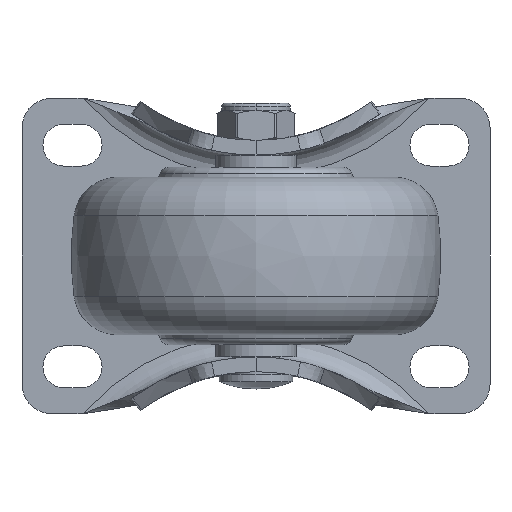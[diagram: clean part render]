
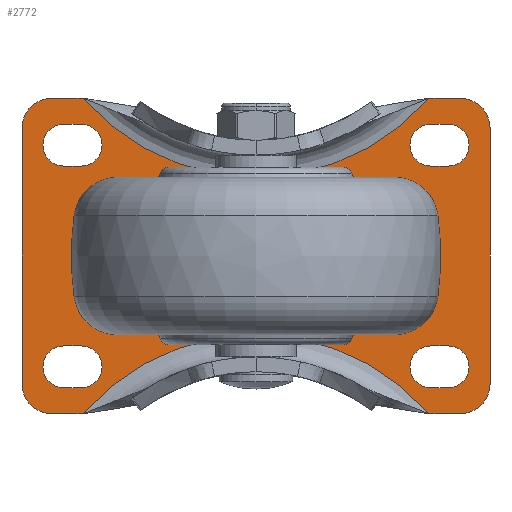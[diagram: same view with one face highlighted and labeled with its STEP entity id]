
A CAD part, front view. The second image highlights one B-rep face of the part: STEP entity #2772.
In plain terms, the highlighted planar face has unit normal (0, -1, 0).
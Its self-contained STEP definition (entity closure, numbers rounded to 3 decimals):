
#1910=CARTESIAN_POINT('',(-41.5,-3.,-26.));
#1911=DIRECTION('',(0.,-1.,0.));
#1912=DIRECTION('',(-1.,0.,0.));
#1913=AXIS2_PLACEMENT_3D('',#1910,#1911,#1912);
#1915=DIRECTION('',(0.,0.,-1.));
#1916=VECTOR('',#1915,52.);
#1917=CARTESIAN_POINT('',(-47.5,-3.,26.));
#1918=LINE('',#1917,#1916);
#1919=CARTESIAN_POINT('',(-41.5,-3.,26.));
#1920=DIRECTION('',(0.,-1.,0.));
#1921=DIRECTION('',(0.,0.,1.));
#1922=AXIS2_PLACEMENT_3D('',#1919,#1920,#1921);
#1924=DIRECTION('',(-1.,0.,0.));
#1925=VECTOR('',#1924,6.4);
#1926=CARTESIAN_POINT('',(-35.1,-3.,32.));
#1927=LINE('',#1926,#1925);
#1928=DIRECTION('',(-1.,0.,0.));
#1929=VECTOR('',#1928,6.4);
#1930=CARTESIAN_POINT('',(41.5,-3.,32.));
#1931=LINE('',#1930,#1929);
#1932=CARTESIAN_POINT('',(41.5,-3.,26.));
#1933=DIRECTION('',(0.,-1.,0.));
#1934=DIRECTION('',(1.,0.,0.));
#1935=AXIS2_PLACEMENT_3D('',#1932,#1933,#1934);
#1937=DIRECTION('',(0.,0.,1.));
#1938=VECTOR('',#1937,52.);
#1939=CARTESIAN_POINT('',(47.5,-3.,-26.));
#1940=LINE('',#1939,#1938);
#1941=CARTESIAN_POINT('',(41.5,-3.,-26.));
#1942=DIRECTION('',(0.,-1.,0.));
#1943=DIRECTION('',(0.,0.,-1.));
#1944=AXIS2_PLACEMENT_3D('',#1941,#1942,#1943);
#1946=DIRECTION('',(1.,0.,0.));
#1947=VECTOR('',#1946,6.4);
#1948=CARTESIAN_POINT('',(35.1,-3.,-32.));
#1949=LINE('',#1948,#1947);
#1950=DIRECTION('',(1.,0.,0.));
#1951=VECTOR('',#1950,6.4);
#1952=CARTESIAN_POINT('',(-41.5,-3.,-32.));
#1953=LINE('',#1952,#1951);
#1954=DIRECTION('',(1.,0.,0.));
#1955=VECTOR('',#1954,3.5);
#1956=CARTESIAN_POINT('',(-39.,-3.,-26.75));
#1957=LINE('',#1956,#1955);
#1958=CARTESIAN_POINT('',(-35.5,-3.,-22.5));
#1959=DIRECTION('',(0.,1.,0.));
#1960=DIRECTION('',(0.,0.,1.));
#1961=AXIS2_PLACEMENT_3D('',#1958,#1959,#1960);
#1963=DIRECTION('',(-1.,0.,0.));
#1964=VECTOR('',#1963,3.5);
#1965=CARTESIAN_POINT('',(-35.5,-3.,-18.25));
#1966=LINE('',#1965,#1964);
#1967=CARTESIAN_POINT('',(-39.,-3.,-22.5));
#1968=DIRECTION('',(0.,1.,0.));
#1969=DIRECTION('',(0.,0.,-1.));
#1970=AXIS2_PLACEMENT_3D('',#1967,#1968,#1969);
#1972=CARTESIAN_POINT('',(39.,-3.,-22.5));
#1973=DIRECTION('',(0.,1.,0.));
#1974=DIRECTION('',(0.,0.,1.));
#1975=AXIS2_PLACEMENT_3D('',#1972,#1973,#1974);
#1977=DIRECTION('',(-1.,0.,0.));
#1978=VECTOR('',#1977,3.5);
#1979=CARTESIAN_POINT('',(39.,-3.,-18.25));
#1980=LINE('',#1979,#1978);
#1981=CARTESIAN_POINT('',(35.5,-3.,-22.5));
#1982=DIRECTION('',(0.,1.,0.));
#1983=DIRECTION('',(0.,0.,-1.));
#1984=AXIS2_PLACEMENT_3D('',#1981,#1982,#1983);
#1986=DIRECTION('',(1.,0.,0.));
#1987=VECTOR('',#1986,3.5);
#1988=CARTESIAN_POINT('',(35.5,-3.,-26.75));
#1989=LINE('',#1988,#1987);
#1990=CARTESIAN_POINT('',(-39.,-3.,22.5));
#1991=DIRECTION('',(0.,1.,0.));
#1992=DIRECTION('',(0.,0.,-1.));
#1993=AXIS2_PLACEMENT_3D('',#1990,#1991,#1992);
#1995=DIRECTION('',(1.,0.,0.));
#1996=VECTOR('',#1995,3.5);
#1997=CARTESIAN_POINT('',(-39.,-3.,18.25));
#1998=LINE('',#1997,#1996);
#1999=CARTESIAN_POINT('',(-35.5,-3.,22.5));
#2000=DIRECTION('',(0.,1.,0.));
#2001=DIRECTION('',(0.,0.,1.));
#2002=AXIS2_PLACEMENT_3D('',#1999,#2000,#2001);
#2004=DIRECTION('',(-1.,0.,0.));
#2005=VECTOR('',#2004,3.5);
#2006=CARTESIAN_POINT('',(-35.5,-3.,26.75));
#2007=LINE('',#2006,#2005);
#2008=DIRECTION('',(-1.,0.,0.));
#2009=VECTOR('',#2008,3.5);
#2010=CARTESIAN_POINT('',(39.,-3.,26.75));
#2011=LINE('',#2010,#2009);
#2012=CARTESIAN_POINT('',(35.5,-3.,22.5));
#2013=DIRECTION('',(0.,1.,0.));
#2014=DIRECTION('',(0.,0.,-1.));
#2015=AXIS2_PLACEMENT_3D('',#2012,#2013,#2014);
#2017=DIRECTION('',(1.,0.,0.));
#2018=VECTOR('',#2017,3.5);
#2019=CARTESIAN_POINT('',(35.5,-3.,18.25));
#2020=LINE('',#2019,#2018);
#2021=CARTESIAN_POINT('',(39.,-3.,22.5));
#2022=DIRECTION('',(0.,1.,0.));
#2023=DIRECTION('',(0.,0.,1.));
#2024=AXIS2_PLACEMENT_3D('',#2021,#2022,#2023);
#2202=CARTESIAN_POINT('',(0.,-3.,-62.5));
#2203=DIRECTION('',(0.,1.,0.));
#2204=DIRECTION('',(-0.755,0.,0.656));
#2205=AXIS2_PLACEMENT_3D('',#2202,#2203,#2204);
#2362=CARTESIAN_POINT('',(0.,-3.,62.5));
#2363=DIRECTION('',(0.,1.,0.));
#2364=DIRECTION('',(0.755,0.,-0.656));
#2365=AXIS2_PLACEMENT_3D('',#2362,#2363,#2364);
#2550=CARTESIAN_POINT('',(35.1,-3.,32.));
#2552=VERTEX_POINT('',#2550);
#2554=CARTESIAN_POINT('',(-35.1,-3.,-32.));
#2556=VERTEX_POINT('',#2554);
#2558=CARTESIAN_POINT('',(-35.1,-3.,32.));
#2560=VERTEX_POINT('',#2558);
#2562=CARTESIAN_POINT('',(35.1,-3.,-32.));
#2564=VERTEX_POINT('',#2562);
#2576=CARTESIAN_POINT('',(-47.5,-3.,-26.));
#2577=VERTEX_POINT('',#2576);
#2578=CARTESIAN_POINT('',(-41.5,-3.,-32.));
#2579=VERTEX_POINT('',#2578);
#2584=CARTESIAN_POINT('',(-41.5,-3.,32.));
#2585=VERTEX_POINT('',#2584);
#2586=CARTESIAN_POINT('',(-47.5,-3.,26.));
#2587=VERTEX_POINT('',#2586);
#2592=CARTESIAN_POINT('',(47.5,-3.,26.));
#2593=VERTEX_POINT('',#2592);
#2594=CARTESIAN_POINT('',(41.5,-3.,32.));
#2595=VERTEX_POINT('',#2594);
#2600=CARTESIAN_POINT('',(41.5,-3.,-32.));
#2601=VERTEX_POINT('',#2600);
#2602=CARTESIAN_POINT('',(47.5,-3.,-26.));
#2603=VERTEX_POINT('',#2602);
#2622=CARTESIAN_POINT('',(-39.,-3.,-26.75));
#2623=CARTESIAN_POINT('',(-35.5,-3.,-26.75));
#2624=VERTEX_POINT('',#2622);
#2625=VERTEX_POINT('',#2623);
#2626=CARTESIAN_POINT('',(-35.5,-3.,-18.25));
#2627=VERTEX_POINT('',#2626);
#2628=CARTESIAN_POINT('',(-39.,-3.,-18.25));
#2629=VERTEX_POINT('',#2628);
#2630=CARTESIAN_POINT('',(39.,-3.,-18.25));
#2631=CARTESIAN_POINT('',(39.,-3.,-26.75));
#2632=VERTEX_POINT('',#2630);
#2633=VERTEX_POINT('',#2631);
#2634=CARTESIAN_POINT('',(35.5,-3.,-18.25));
#2635=VERTEX_POINT('',#2634);
#2636=CARTESIAN_POINT('',(35.5,-3.,-26.75));
#2637=VERTEX_POINT('',#2636);
#2638=CARTESIAN_POINT('',(-39.,-3.,18.25));
#2639=CARTESIAN_POINT('',(-39.,-3.,26.75));
#2640=VERTEX_POINT('',#2638);
#2641=VERTEX_POINT('',#2639);
#2642=CARTESIAN_POINT('',(-35.5,-3.,18.25));
#2643=VERTEX_POINT('',#2642);
#2644=CARTESIAN_POINT('',(-35.5,-3.,26.75));
#2645=VERTEX_POINT('',#2644);
#2646=CARTESIAN_POINT('',(39.,-3.,26.75));
#2647=CARTESIAN_POINT('',(35.5,-3.,26.75));
#2648=VERTEX_POINT('',#2646);
#2649=VERTEX_POINT('',#2647);
#2650=CARTESIAN_POINT('',(35.5,-3.,18.25));
#2651=VERTEX_POINT('',#2650);
#2652=CARTESIAN_POINT('',(39.,-3.,18.25));
#2653=VERTEX_POINT('',#2652);
#2702=CARTESIAN_POINT('',(0.,-3.,0.));
#2703=DIRECTION('',(0.,1.,0.));
#2704=DIRECTION('',(1.,0.,0.));
#2705=AXIS2_PLACEMENT_3D('',#2702,#2703,#2704);
#2706=PLANE('',#2705);
#2708=ORIENTED_EDGE('',*,*,#2707,.F.);
#2710=ORIENTED_EDGE('',*,*,#2709,.F.);
#2712=ORIENTED_EDGE('',*,*,#2711,.F.);
#2714=ORIENTED_EDGE('',*,*,#2713,.F.);
#2716=ORIENTED_EDGE('',*,*,#2715,.F.);
#2718=ORIENTED_EDGE('',*,*,#2717,.F.);
#2720=ORIENTED_EDGE('',*,*,#2719,.F.);
#2722=ORIENTED_EDGE('',*,*,#2721,.F.);
#2724=ORIENTED_EDGE('',*,*,#2723,.F.);
#2726=ORIENTED_EDGE('',*,*,#2725,.F.);
#2728=ORIENTED_EDGE('',*,*,#2727,.F.);
#2730=ORIENTED_EDGE('',*,*,#2729,.F.);
#2731=EDGE_LOOP('',(#2708,#2710,#2712,#2714,#2716,#2718,#2720,#2722,#2724,#2726,
#2728,#2730));
#2732=FACE_OUTER_BOUND('',#2731,.F.);
#2734=ORIENTED_EDGE('',*,*,#2733,.T.);
#2736=ORIENTED_EDGE('',*,*,#2735,.F.);
#2738=ORIENTED_EDGE('',*,*,#2737,.T.);
#2740=ORIENTED_EDGE('',*,*,#2739,.F.);
#2741=EDGE_LOOP('',(#2734,#2736,#2738,#2740));
#2742=FACE_BOUND('',#2741,.F.);
#2743=ORIENTED_EDGE('',*,*,#2691,.F.);
#2745=ORIENTED_EDGE('',*,*,#2744,.T.);
#2747=ORIENTED_EDGE('',*,*,#2746,.F.);
#2749=ORIENTED_EDGE('',*,*,#2748,.T.);
#2750=EDGE_LOOP('',(#2743,#2745,#2747,#2749));
#2751=FACE_BOUND('',#2750,.F.);
#2753=ORIENTED_EDGE('',*,*,#2752,.F.);
#2755=ORIENTED_EDGE('',*,*,#2754,.T.);
#2757=ORIENTED_EDGE('',*,*,#2756,.F.);
#2759=ORIENTED_EDGE('',*,*,#2758,.T.);
#2760=EDGE_LOOP('',(#2753,#2755,#2757,#2759));
#2761=FACE_BOUND('',#2760,.F.);
#2763=ORIENTED_EDGE('',*,*,#2762,.T.);
#2765=ORIENTED_EDGE('',*,*,#2764,.F.);
#2767=ORIENTED_EDGE('',*,*,#2766,.T.);
#2769=ORIENTED_EDGE('',*,*,#2768,.F.);
#2770=EDGE_LOOP('',(#2763,#2765,#2767,#2769));
#2771=FACE_BOUND('',#2770,.F.);
#1914=CIRCLE('',#1913,6.);
#1923=CIRCLE('',#1922,6.);
#1936=CIRCLE('',#1935,6.);
#1945=CIRCLE('',#1944,6.);
#1962=CIRCLE('',#1961,4.25);
#1971=CIRCLE('',#1970,4.25);
#1976=CIRCLE('',#1975,4.25);
#1985=CIRCLE('',#1984,4.25);
#1994=CIRCLE('',#1993,4.25);
#2003=CIRCLE('',#2002,4.25);
#2016=CIRCLE('',#2015,4.25);
#2025=CIRCLE('',#2024,4.25);
#2206=CIRCLE('',#2205,46.5);
#2366=CIRCLE('',#2365,46.5);
#2691=EDGE_CURVE('',#2632,#2633,#1976,.T.);
#2707=EDGE_CURVE('',#2577,#2579,#1914,.T.);
#2709=EDGE_CURVE('',#2587,#2577,#1918,.T.);
#2711=EDGE_CURVE('',#2585,#2587,#1923,.T.);
#2713=EDGE_CURVE('',#2560,#2585,#1927,.T.);
#2715=EDGE_CURVE('',#2552,#2560,#2366,.T.);
#2717=EDGE_CURVE('',#2595,#2552,#1931,.T.);
#2719=EDGE_CURVE('',#2593,#2595,#1936,.T.);
#2721=EDGE_CURVE('',#2603,#2593,#1940,.T.);
#2723=EDGE_CURVE('',#2601,#2603,#1945,.T.);
#2725=EDGE_CURVE('',#2564,#2601,#1949,.T.);
#2727=EDGE_CURVE('',#2556,#2564,#2206,.T.);
#2729=EDGE_CURVE('',#2579,#2556,#1953,.T.);
#2733=EDGE_CURVE('',#2624,#2625,#1957,.T.);
#2735=EDGE_CURVE('',#2627,#2625,#1962,.T.);
#2737=EDGE_CURVE('',#2627,#2629,#1966,.T.);
#2739=EDGE_CURVE('',#2624,#2629,#1971,.T.);
#2744=EDGE_CURVE('',#2632,#2635,#1980,.T.);
#2746=EDGE_CURVE('',#2637,#2635,#1985,.T.);
#2748=EDGE_CURVE('',#2637,#2633,#1989,.T.);
#2752=EDGE_CURVE('',#2640,#2641,#1994,.T.);
#2754=EDGE_CURVE('',#2640,#2643,#1998,.T.);
#2756=EDGE_CURVE('',#2645,#2643,#2003,.T.);
#2758=EDGE_CURVE('',#2645,#2641,#2007,.T.);
#2762=EDGE_CURVE('',#2648,#2649,#2011,.T.);
#2764=EDGE_CURVE('',#2651,#2649,#2016,.T.);
#2766=EDGE_CURVE('',#2651,#2653,#2020,.T.);
#2768=EDGE_CURVE('',#2648,#2653,#2025,.T.);
#2772=ADVANCED_FACE('',(#2732,#2742,#2751,#2761,#2771),#2706,.F.);
